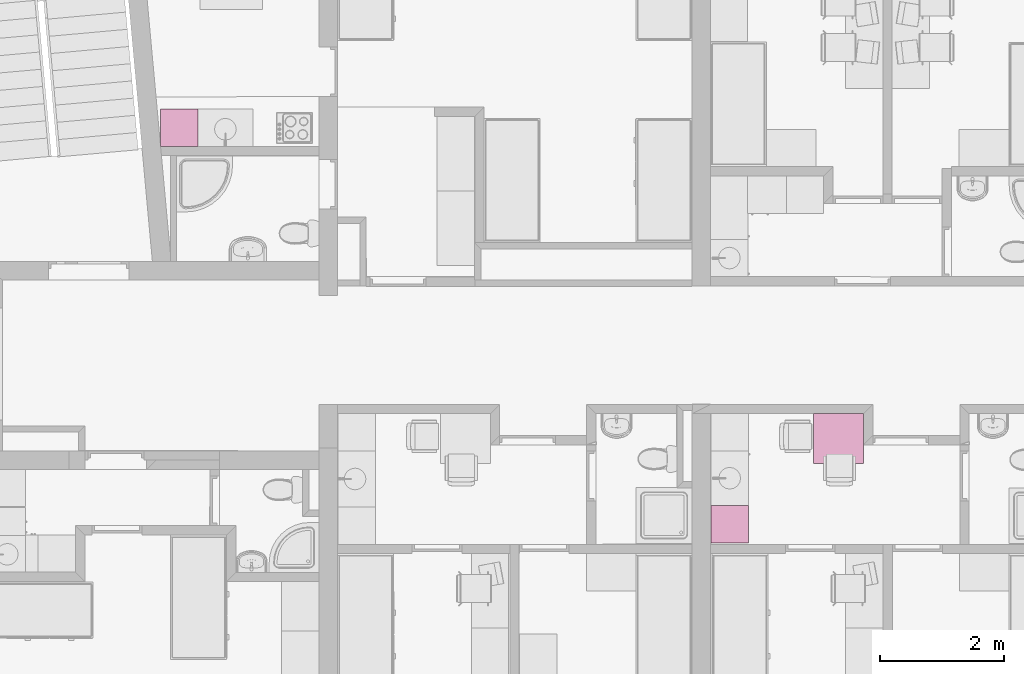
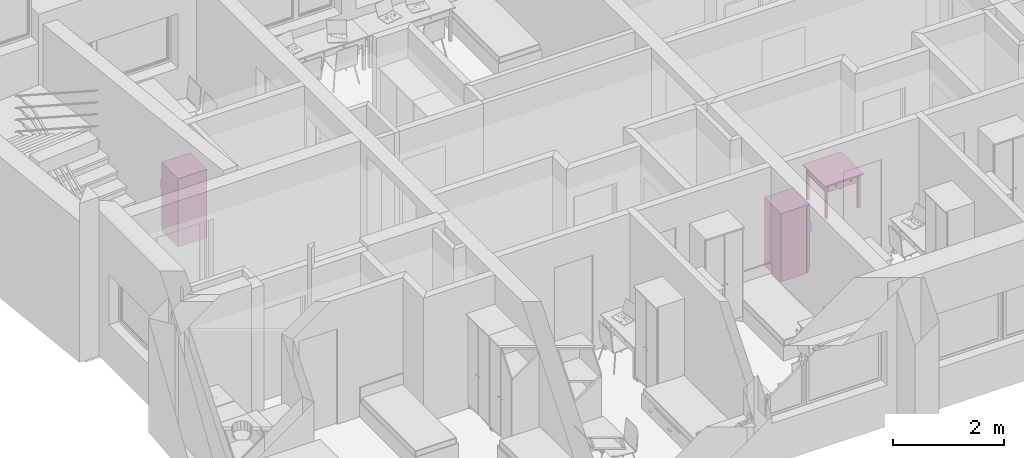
# One storey, part 86 of 172: 3 furnishings.
"""IFC2X3 building model written with IfcOpenShell, lengths in millimetres."""

from ifc_helpers import new_model, entity, si_unit, converted_unit, money_unit, direction, frame, origin_with_axes, place, context, subcontext, project, spatial, open_shell, faceted_brep, surface_model, source, transform, mapped, material, material_list, type_object, element, save


model = new_model("IFC2X3")

# Units and contexts
model_context = context("Model", 3, precision=1e-05, world=origin_with_axes(), true_north=direction((0.0, 1.0)))
body_context = subcontext(model_context, "Body", "Model", "MODEL_VIEW")
ifc_project = project(units=[si_unit("LENGTHUNIT", "METRE", prefix="MILLI"), si_unit("AREAUNIT", "SQUARE_METRE"), si_unit("VOLUMEUNIT", "CUBIC_METRE"), converted_unit("PLANEANGLEUNIT", "DEGREE", entity("IfcPlaneAngleMeasure", 0.0174532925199), si_unit("PLANEANGLEUNIT", "RADIAN"), dimensions=[0, 0, 0, 0, 0, 0, 0]), si_unit("SOLIDANGLEUNIT", "STERADIAN"), money_unit("USD"), converted_unit("TIMEUNIT", "Year", entity("IfcTimeMeasure", 31556926.0), si_unit("TIMEUNIT", "SECOND"), dimensions=[0, 0, 0, 0, 0, 0, 0]), si_unit("MASSUNIT", "GRAM"), si_unit("THERMODYNAMICTEMPERATUREUNIT", "DEGREE_CELSIUS"), si_unit("LUMINOUSINTENSITYUNIT", "LUMEN")], contexts=[model_context])

# Site, building, storey
site_placement = place(None, origin_with_axes())
site = spatial("IfcSite", under=ifc_project, at=site_placement, Name="Site", CompositionType="ELEMENT")
building_placement = place(site_placement, origin_with_axes())
building = spatial("IfcBuilding", under=site, at=building_placement, Name="Building", CompositionType="ELEMENT")
storey_placement = place(building_placement, frame((0.0, 0.0, 3200.0), z_axis=(0.0, 0.0, 1.0), x_axis=(1.0, 0.0, 0.0)))
storey = spatial("IfcBuildingStorey", under=building, at=storey_placement, Name="3KORRUS", CompositionType="ELEMENT", Elevation=3200.0)

# Furnishings
ifc_material = material(Name="Background")
ifc_material_list = material_list([ifc_material])
furnishing_element_type_1 = type_object("IfcFurnishingElementType", Name="Rectangular Table 01 19")
shared_shape_1 = source(origin_with_axes(), body_context, "Body", "Brep", [
    faceted_brep([(90.0, 40.0, 0.0), (40.0, 40.0, 0.0), (40.0, 90.0, 0.0), (90.0, 90.0, 0.0), (90.0, 40.0, 725.0), (40.0, 40.0, 725.0), (40.0, 90.0, 725.0), (90.0, 90.0, 725.0)], [[[0, 1, 2, 3]], [[1, 0, 4, 5]], [[2, 1, 5, 6]], [[3, 2, 6, 7]], [[0, 3, 7, 4]], [[5, 4, 7, 6]]]),
    faceted_brep([(760.0, 40.0, 0.0), (710.0, 40.0, 0.0), (710.0, 90.0, 0.0), (760.0, 90.0, 0.0), (760.0, 40.0, 725.0), (710.0, 40.0, 725.0), (710.0, 90.0, 725.0), (760.0, 90.0, 725.0)], [[[0, 1, 2, 3]], [[1, 0, 4, 5]], [[2, 1, 5, 6]], [[3, 2, 6, 7]], [[0, 3, 7, 4]], [[5, 4, 7, 6]]]),
    faceted_brep([(90.0, 710.0, 0.0), (40.0, 710.0, 0.0), (40.0, 760.0, 0.0), (90.0, 760.0, 0.0), (90.0, 710.0, 725.0), (40.0, 710.0, 725.0), (40.0, 760.0, 725.0), (90.0, 760.0, 725.0)], [[[0, 1, 2, 3]], [[1, 0, 4, 5]], [[2, 1, 5, 6]], [[3, 2, 6, 7]], [[0, 3, 7, 4]], [[5, 4, 7, 6]]]),
    faceted_brep([(760.0, 710.0, 0.0), (710.0, 710.0, 0.0), (710.0, 760.0, 0.0), (760.0, 760.0, 0.0), (760.0, 710.0, 725.0), (710.0, 710.0, 725.0), (710.0, 760.0, 725.0), (760.0, 760.0, 725.0)], [[[0, 1, 2, 3]], [[1, 0, 4, 5]], [[2, 1, 5, 6]], [[3, 2, 6, 7]], [[0, 3, 7, 4]], [[5, 4, 7, 6]]]),
    faceted_brep([(760.0, 40.0, 565.0), (40.0, 40.0, 565.0), (40.0, 760.0, 565.0), (760.0, 760.0, 565.0), (760.0, 40.0, 585.0), (40.0, 40.0, 585.0), (40.0, 760.0, 585.0), (760.0, 760.0, 585.0)], [[[0, 1, 2, 3]], [[1, 0, 4, 5]], [[2, 1, 5, 6]], [[3, 2, 6, 7]], [[0, 3, 7, 4]], [[5, 4, 7, 6]]]),
    faceted_brep([(710.0, 52.5, 585.0), (90.0, 52.5, 585.0), (90.0, 77.5, 585.0), (710.0, 77.5, 585.0), (710.0, 52.5, 745.0), (90.0, 52.5, 745.0), (90.0, 77.5, 745.0), (710.0, 77.5, 745.0)], [[[0, 1, 2, 3]], [[1, 0, 4, 5]], [[2, 1, 5, 6]], [[3, 2, 6, 7]], [[0, 3, 7, 4]], [[5, 4, 7, 6]]]),
    faceted_brep([(77.5, 90.0, 585.0), (52.5, 90.0, 585.0), (52.5, 710.0, 585.0), (77.5, 710.0, 585.0), (77.5, 90.0, 745.0), (52.5, 90.0, 745.0), (52.5, 710.0, 745.0), (77.5, 710.0, 745.0)], [[[0, 1, 2, 3]], [[1, 0, 4, 5]], [[2, 1, 5, 6]], [[3, 2, 6, 7]], [[0, 3, 7, 4]], [[5, 4, 7, 6]]]),
    faceted_brep([(90.0, 747.5, 585.0), (710.0, 747.5, 585.0), (710.0, 722.5, 585.0), (90.0, 722.5, 585.0), (90.0, 747.5, 745.0), (710.0, 747.5, 745.0), (710.0, 722.5, 745.0), (90.0, 722.5, 745.0)], [[[0, 1, 2, 3]], [[1, 0, 4, 5]], [[2, 1, 5, 6]], [[3, 2, 6, 7]], [[0, 3, 7, 4]], [[5, 4, 7, 6]]]),
    faceted_brep([(722.5, 710.0, 585.0), (747.5, 710.0, 585.0), (747.5, 90.0, 585.0), (722.5, 90.0, 585.0), (722.5, 710.0, 745.0), (747.5, 710.0, 745.0), (747.5, 90.0, 745.0), (722.5, 90.0, 745.0)], [[[0, 1, 2, 3]], [[1, 0, 4, 5]], [[2, 1, 5, 6]], [[3, 2, 6, 7]], [[0, 3, 7, 4]], [[5, 4, 7, 6]]]),
    faceted_brep([(397.5, 40.0, 585.0), (95.0, 40.0, 585.0), (95.0, 60.0, 585.0), (397.5, 60.0, 585.0), (397.5, 40.0, 745.0), (95.0, 40.0, 745.0), (95.0, 60.0, 745.0), (397.5, 60.0, 745.0)], [[[0, 1, 2, 3]], [[1, 0, 4, 5]], [[2, 1, 5, 6]], [[3, 2, 6, 7]], [[0, 3, 7, 4]], [[5, 4, 7, 6]]]),
    faceted_brep([(705.0, 40.0, 585.0), (402.5, 40.0, 585.0), (402.5, 60.0, 585.0), (705.0, 60.0, 585.0), (705.0, 40.0, 745.0), (402.5, 40.0, 745.0), (402.5, 60.0, 745.0), (705.0, 60.0, 745.0)], [[[0, 1, 2, 3]], [[1, 0, 4, 5]], [[2, 1, 5, 6]], [[3, 2, 6, 7]], [[0, 3, 7, 4]], [[5, 4, 7, 6]]]),
    faceted_brep([(254.91, 40.0, 660.0), (251.25, 40.0, 656.34), (246.25, 40.0, 655.0), (241.25, 40.0, 656.34), (237.59, 40.0, 660.0), (236.25, 40.0, 665.0), (237.59, 40.0, 670.0), (241.25, 40.0, 673.66), (246.25, 40.0, 675.0), (251.25, 40.0, 673.66), (254.91, 40.0, 670.0), (256.25, 40.0, 665.0), (254.91, 25.0, 660.0), (251.25, 25.0, 656.34), (246.25, 25.0, 655.0), (241.25, 25.0, 656.34), (237.59, 25.0, 660.0), (236.25, 25.0, 665.0), (237.59, 25.0, 670.0), (241.25, 25.0, 673.66), (246.25, 25.0, 675.0), (251.25, 25.0, 673.66), (254.91, 25.0, 670.0), (256.25, 25.0, 665.0)], [[[0, 1, 2, 3, 4, 5, 6, 7, 8, 9, 10, 11]], [[1, 0, 12, 13]], [[2, 1, 13, 14]], [[3, 2, 14, 15]], [[4, 3, 15, 16]], [[5, 4, 16, 17]], [[6, 5, 17, 18]], [[7, 6, 18, 19]], [[8, 7, 19, 20]], [[9, 8, 20, 21]], [[10, 9, 21, 22]], [[11, 10, 22, 23]], [[0, 11, 23, 12]], [[12, 23, 22, 21, 20, 19, 18, 17, 16, 15, 14, 13]]]),
    faceted_brep([(256.25, 12.01, 665.0), (246.25, 10.0, 665.0), (254.91, 12.01, 660.0), (254.91, 12.01, 670.0), (251.25, 12.01, 656.34), (263.571, 17.5, 665.0), (261.25, 17.5, 656.34), (251.25, 12.01, 673.66), (261.25, 17.5, 673.66), (246.25, 12.01, 655.0), (254.91, 17.5, 650.0), (266.25, 25.0, 665.0), (263.571, 25.0, 655.0), (246.25, 12.01, 675.0), (254.91, 17.5, 680.0), (263.571, 25.0, 675.0), (241.25, 12.01, 656.34), (246.25, 17.5, 647.679), (256.25, 25.0, 647.679), (246.25, 25.0, 645.0), (236.25, 25.0, 647.679), (228.929, 25.0, 655.0), (226.25, 25.0, 665.0), (228.929, 25.0, 675.0), (236.25, 25.0, 682.321), (246.25, 25.0, 685.0), (256.25, 25.0, 682.321), (241.25, 12.01, 673.66), (246.25, 17.5, 682.321), (237.59, 12.01, 660.0), (237.59, 17.5, 650.0), (231.25, 17.5, 656.34), (228.929, 17.5, 665.0), (231.25, 17.5, 673.66), (237.59, 17.5, 680.0), (237.59, 12.01, 670.0), (236.25, 12.01, 665.0)], [[[0, 1, 2]], [[3, 1, 0]], [[2, 1, 4]], [[5, 0, 2, 6]], [[7, 1, 3]], [[8, 3, 0, 5]], [[4, 1, 9]], [[6, 2, 4, 10]], [[11, 5, 6, 12]], [[13, 1, 7]], [[14, 7, 3, 8]], [[15, 8, 5, 11]], [[9, 1, 16]], [[10, 4, 9, 17]], [[12, 6, 10, 18]], [[12, 18, 19, 20, 21, 22, 23, 24, 25, 26, 15, 11]], [[27, 1, 13]], [[28, 13, 7, 14]], [[26, 14, 8, 15]], [[16, 1, 29]], [[17, 9, 16, 30]], [[18, 10, 17, 19]], [[19, 17, 30, 20]], [[20, 30, 31, 21]], [[21, 31, 32, 22]], [[22, 32, 33, 23]], [[23, 33, 34, 24]], [[24, 34, 28, 25]], [[25, 28, 14, 26]], [[35, 1, 27]], [[34, 27, 13, 28]], [[29, 1, 36]], [[30, 16, 29, 31]], [[31, 29, 36, 32]], [[32, 36, 35, 33]], [[33, 35, 27, 34]], [[36, 1, 35]]]),
    faceted_brep([(562.41, 40.0, 660.0), (558.75, 40.0, 656.34), (553.75, 40.0, 655.0), (548.75, 40.0, 656.34), (545.09, 40.0, 660.0), (543.75, 40.0, 665.0), (545.09, 40.0, 670.0), (548.75, 40.0, 673.66), (553.75, 40.0, 675.0), (558.75, 40.0, 673.66), (562.41, 40.0, 670.0), (563.75, 40.0, 665.0), (562.41, 25.0, 660.0), (558.75, 25.0, 656.34), (553.75, 25.0, 655.0), (548.75, 25.0, 656.34), (545.09, 25.0, 660.0), (543.75, 25.0, 665.0), (545.09, 25.0, 670.0), (548.75, 25.0, 673.66), (553.75, 25.0, 675.0), (558.75, 25.0, 673.66), (562.41, 25.0, 670.0), (563.75, 25.0, 665.0)], [[[0, 1, 2, 3, 4, 5, 6, 7, 8, 9, 10, 11]], [[1, 0, 12, 13]], [[2, 1, 13, 14]], [[3, 2, 14, 15]], [[4, 3, 15, 16]], [[5, 4, 16, 17]], [[6, 5, 17, 18]], [[7, 6, 18, 19]], [[8, 7, 19, 20]], [[9, 8, 20, 21]], [[10, 9, 21, 22]], [[11, 10, 22, 23]], [[0, 11, 23, 12]], [[12, 23, 22, 21, 20, 19, 18, 17, 16, 15, 14, 13]]]),
    faceted_brep([(563.75, 12.01, 665.0), (553.75, 10.0, 665.0), (562.41, 12.01, 660.0), (562.41, 12.01, 670.0), (558.75, 12.01, 656.34), (571.071, 17.5, 665.0), (568.75, 17.5, 656.34), (558.75, 12.01, 673.66), (568.75, 17.5, 673.66), (553.75, 12.01, 655.0), (562.41, 17.5, 650.0), (573.75, 25.0, 665.0), (571.071, 25.0, 655.0), (553.75, 12.01, 675.0), (562.41, 17.5, 680.0), (571.071, 25.0, 675.0), (548.75, 12.01, 656.34), (553.75, 17.5, 647.679), (563.75, 25.0, 647.679), (553.75, 25.0, 645.0), (543.75, 25.0, 647.679), (536.429, 25.0, 655.0), (533.75, 25.0, 665.0), (536.429, 25.0, 675.0), (543.75, 25.0, 682.321), (553.75, 25.0, 685.0), (563.75, 25.0, 682.321), (548.75, 12.01, 673.66), (553.75, 17.5, 682.321), (545.09, 12.01, 660.0), (545.09, 17.5, 650.0), (538.75, 17.5, 656.34), (536.429, 17.5, 665.0), (538.75, 17.5, 673.66), (545.09, 17.5, 680.0), (545.09, 12.01, 670.0), (543.75, 12.01, 665.0)], [[[0, 1, 2]], [[3, 1, 0]], [[2, 1, 4]], [[5, 0, 2, 6]], [[7, 1, 3]], [[8, 3, 0, 5]], [[4, 1, 9]], [[6, 2, 4, 10]], [[11, 5, 6, 12]], [[13, 1, 7]], [[14, 7, 3, 8]], [[15, 8, 5, 11]], [[9, 1, 16]], [[10, 4, 9, 17]], [[12, 6, 10, 18]], [[12, 18, 19, 20, 21, 22, 23, 24, 25, 26, 15, 11]], [[27, 1, 13]], [[28, 13, 7, 14]], [[26, 14, 8, 15]], [[16, 1, 29]], [[17, 9, 16, 30]], [[18, 10, 17, 19]], [[19, 17, 30, 20]], [[20, 30, 31, 21]], [[21, 31, 32, 22]], [[22, 32, 33, 23]], [[23, 33, 34, 24]], [[24, 34, 28, 25]], [[25, 28, 14, 26]], [[35, 1, 27]], [[34, 27, 13, 28]], [[29, 1, 36]], [[30, 16, 29, 31]], [[31, 29, 36, 32]], [[32, 36, 35, 33]], [[33, 35, 27, 34]], [[36, 1, 35]]]),
    faceted_brep([(800.0, 0.0, 725.0), (0.0, 0.0, 725.0), (0.0, 800.0, 725.0), (800.0, 800.0, 725.0), (800.0, 0.0, 750.0), (0.0, 0.0, 750.0), (0.0, 800.0, 750.0), (800.0, 800.0, 750.0)], [[[0, 1, 2, 3]], [[1, 0, 4, 5]], [[2, 1, 5, 6]], [[3, 2, 6, 7]], [[0, 3, 7, 4]], [[5, 4, 7, 6]]]),
])
furnishing_1_placement = place(storey_placement, frame((-40333.8623684, -13989.2398994, 0.0), z_axis=(0.0, 0.0, 1.0), x_axis=(1.0, 0.0, 0.0)))
element("IfcFurnishingElement", 1, at=furnishing_1_placement, inside=storey, type_object=furnishing_element_type_1, material=ifc_material_list, Name="FU - 011", context=body_context, shape_type="MappedRepresentation", body=[
    mapped(shared_shape_1, transform((0.0, 0.0, 0.0))),
])
furnishing_element_type_2 = type_object("IfcFurnishingElementType", Name="Refrigerator 19")
shared_shape_2 = source(origin_with_axes(), body_context, "Body", "SurfaceModel", [
    faceted_brep([(0.0, 0.0, 1475.0), (600.0, 0.0, 1475.0), (600.0, 0.0, 1500.0), (0.0, 0.0, 1500.0), (0.0, 600.0, 1475.0), (600.0, 600.0, 1475.0), (600.0, 600.0, 1500.0), (0.0, 600.0, 1500.0)], [[[0, 1, 2, 3]], [[0, 4, 5, 1]], [[1, 5, 6, 2]], [[3, 2, 6, 7]], [[4, 0, 3, 7]], [[5, 4, 7, 6]]]),
    faceted_brep([(0.0, 65.0, 0.0), (600.0, 65.0, 0.0), (600.0, 65.0, 1475.0), (0.0, 65.0, 1475.0), (0.0, 600.0, 0.0), (600.0, 600.0, 0.0), (600.0, 600.0, 1475.0), (0.0, 600.0, 1475.0)], [[[0, 1, 2, 3]], [[0, 4, 5, 1]], [[1, 5, 6, 2]], [[3, 2, 6, 7]], [[4, 0, 3, 7]], [[5, 4, 7, 6]]]),
    faceted_brep([(0.0, 30.0, 0.0), (600.0, 30.0, 0.0), (600.0, 30.0, 90.0), (0.0, 30.0, 90.0), (0.0, 60.0, 0.0), (600.0, 60.0, 0.0), (600.0, 60.0, 90.0), (0.0, 60.0, 90.0)], [[[0, 1, 2, 3]], [[0, 4, 5, 1]], [[1, 5, 6, 2]], [[3, 2, 6, 7]], [[4, 0, 3, 7]], [[5, 4, 7, 6]]]),
    faceted_brep([(0.0, 60.0, 90.0), (600.0, 60.0, 90.0), (600.0, 0.0, 90.0), (0.0, 0.0, 90.0), (0.0, 60.0, 1474.5), (600.0, 60.0, 1474.5), (600.0, 0.0, 1474.5), (0.0, 0.0, 1474.5)], [[[0, 1, 2, 3]], [[0, 4, 5, 1]], [[1, 5, 6, 2]], [[3, 2, 6, 7]], [[4, 0, 3, 7]], [[5, 4, 7, 6]]]),
    surface_model("IfcShellBasedSurfaceModel", [(600.0, -30.0, 900.0), (600.0, -30.0, 1100.0), (600.0, 0.0, 1100.0), (600.0, 0.0, 900.0)], [open_shell([[[0, 1, 2, 3]]])]),
    surface_model("IfcShellBasedSurfaceModel", [(600.0, -30.0, 900.0), (600.0, -30.0, 1100.0), (570.0, -30.0, 1100.0), (570.0, -30.0, 900.0)], [open_shell([[[0, 1, 2, 3]]])]),
])
furnishing_2_placement = place(storey_placement, frame((-50236.5413309, -8289.27319796, 0.0), z_axis=(0.0, 0.0, 1.0), x_axis=(-1.0, 0.0, 0.0)))
element("IfcFurnishingElement", 2, at=furnishing_2_placement, inside=storey, type_object=furnishing_element_type_2, material=ifc_material_list, Name="FU - 007", context=body_context, shape_type="MappedRepresentation", body=[
    mapped(shared_shape_2, transform((0.0, 0.0, 0.0))),
])
shared_shape_3 = source(origin_with_axes(), body_context, "Body", "SurfaceModel", [
    faceted_brep([(0.0, 0.0, 1475.0), (0.0, 0.0, 1500.0), (-600.0, 0.0, 1500.0), (-600.0, 0.0, 1475.0), (0.0, 600.0, 1475.0), (0.0, 600.0, 1500.0), (-600.0, 600.0, 1500.0), (-600.0, 600.0, 1475.0)], [[[0, 1, 2, 3]], [[4, 5, 1, 0]], [[1, 5, 6, 2]], [[3, 2, 6, 7]], [[0, 3, 7, 4]], [[7, 6, 5, 4]]]),
    faceted_brep([(0.0, 65.0, 0.0), (0.0, 65.0, 1475.0), (-600.0, 65.0, 1475.0), (-600.0, 65.0, 0.0), (0.0, 600.0, 0.0), (0.0, 600.0, 1475.0), (-600.0, 600.0, 1475.0), (-600.0, 600.0, 0.0)], [[[0, 1, 2, 3]], [[4, 5, 1, 0]], [[1, 5, 6, 2]], [[3, 2, 6, 7]], [[0, 3, 7, 4]], [[7, 6, 5, 4]]]),
    faceted_brep([(0.0, 30.0, 0.0), (0.0, 30.0, 90.0), (-600.0, 30.0, 90.0), (-600.0, 30.0, 0.0), (0.0, 60.0, 0.0), (0.0, 60.0, 90.0), (-600.0, 60.0, 90.0), (-600.0, 60.0, 0.0)], [[[0, 1, 2, 3]], [[4, 5, 1, 0]], [[1, 5, 6, 2]], [[3, 2, 6, 7]], [[0, 3, 7, 4]], [[7, 6, 5, 4]]]),
    faceted_brep([(0.0, 60.0, 90.0), (0.0, 0.0, 90.0), (-600.0, 0.0, 90.0), (-600.0, 60.0, 90.0), (0.0, 60.0, 1474.5), (0.0, 0.0, 1474.5), (-600.0, 0.0, 1474.5), (-600.0, 60.0, 1474.5)], [[[0, 1, 2, 3]], [[4, 5, 1, 0]], [[1, 5, 6, 2]], [[3, 2, 6, 7]], [[0, 3, 7, 4]], [[7, 6, 5, 4]]]),
    surface_model("IfcShellBasedSurfaceModel", [(-600.0, -30.0, 900.0), (-600.0, 0.0, 900.0), (-600.0, 0.0, 1100.0), (-600.0, -30.0, 1100.0)], [open_shell([[[0, 1, 2, 3]]])]),
    surface_model("IfcShellBasedSurfaceModel", [(-600.0, -30.0, 900.0), (-570.0, -30.0, 900.0), (-570.0, -30.0, 1100.0), (-600.0, -30.0, 1100.0)], [open_shell([[[0, 1, 2, 3]]])]),
])
furnishing_3_placement = place(storey_placement, frame((-41384.008308, -14664.7705299, 0.0), z_axis=(0.0, 0.0, 1.0), x_axis=(0.0, 1.0, 0.0)))
element("IfcFurnishingElement", 3, at=furnishing_3_placement, inside=storey, type_object=furnishing_element_type_2, material=ifc_material_list, Name="FU - 007", context=body_context, shape_type="MappedRepresentation", body=[
    mapped(shared_shape_3, transform((0.0, 0.0, 0.0))),
])

save(model, "model.ifc")
